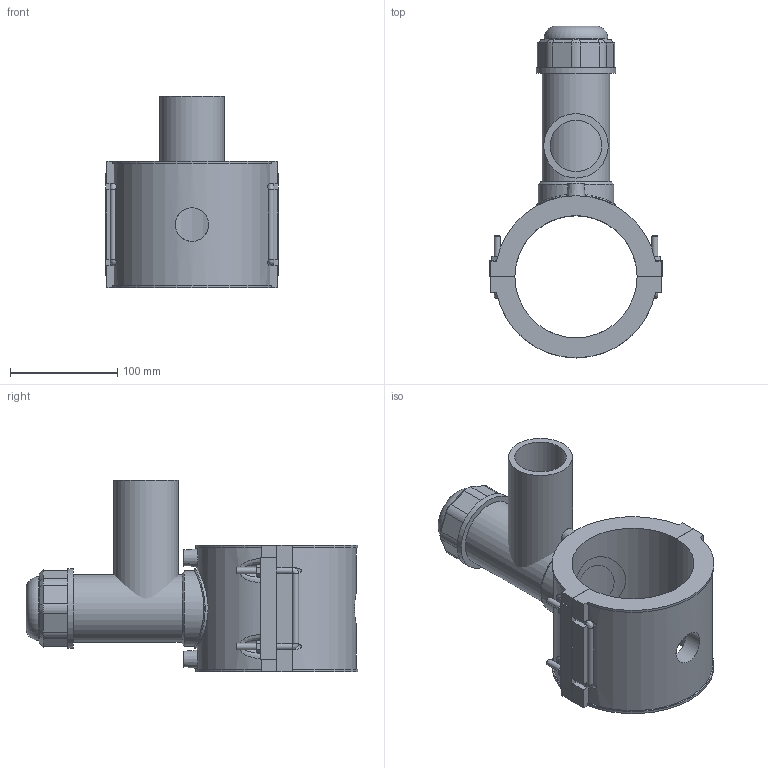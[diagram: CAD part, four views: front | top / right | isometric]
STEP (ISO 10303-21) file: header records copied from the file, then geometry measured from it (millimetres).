
FILE_DESCRIPTION(/* description */ ('PLASSON TAPPING SADDLE 4''''IPS x 2''''IPS'),/* implementation_level */ '2;1');
FILE_NAME(/* name */ 'C:\Dropbox\KIMPROJECTS-Inventor 2019\99-16-3568-Processing Inch\ASTM ElectroFusion 2021\5963BBP_5963BUP\5963BBP3040020.ipt.stp',/* time_stamp */ '2021-08-30T09:57:11+03:00',/* author */ ('KIM'),/* organization */ (''),/* preprocessor_version */ 'ST-DEVELOPER v17.2',/* originating_system */ 'Autodesk Inventor 2019',/* authorisation */ '');
FILE_SCHEMA (('AUTOMOTIVE_DESIGN { 1 0 10303 214 3 1 1 }'));
Length unit declared in the file: inch
Products named in the file (1): 5963BBP3040020
Bounding box: 161 x 309.74 x 178.94 mm (x, y, z)
Volume: 1326268.3 mm3; surface area: 247287.6 mm2
Topology: 3 solids, 3 shells, 195 faces, 500 edges, 321 vertices
Faces by surface type: plane 112, cylinder 54, cone 15, bspline 13, torus 1
Full cylindrical faces by diameter (mm): 4 x2, 6 x8, 10 x2, 31.36 x1, 48.08 x1, 51.915 x1, 59.332 x1, 60.1 x1, 63.04 x1, 70.457 x1, 74.165 x2
Entity records: 7084 total; most frequent: CARTESIAN_POINT 2337, ORIENTED_EDGE 984, DIRECTION 951, EDGE_CURVE 492, AXIS2_PLACEMENT_3D 325, VERTEX_POINT 321, LINE 301, VECTOR 301
